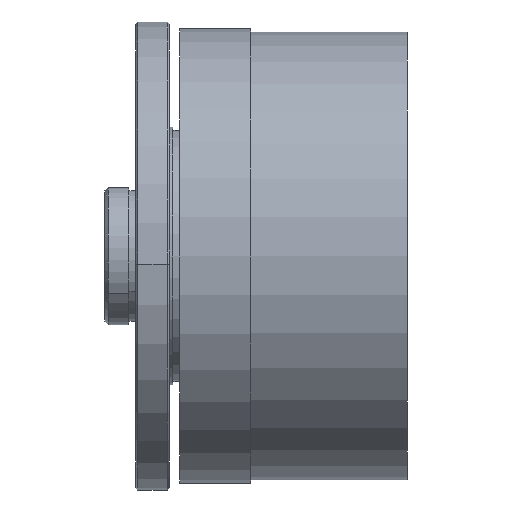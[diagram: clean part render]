
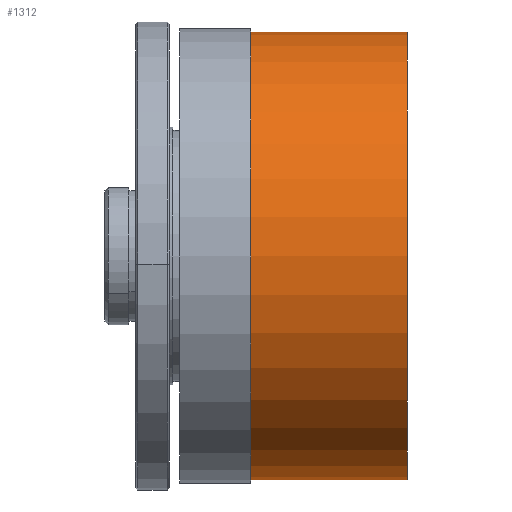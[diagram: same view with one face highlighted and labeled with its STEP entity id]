
A CAD part, left-side view. The second image highlights one B-rep face of the part: STEP entity #1312.
In plain terms, the highlighted cylindrical face has radius 33 mm (diameter 66 mm), a partial arc.
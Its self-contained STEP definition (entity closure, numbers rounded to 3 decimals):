
#97 = VECTOR ( 'NONE', #1203, 1000. ) ;
#114 = EDGE_CURVE ( 'NONE', #715, #488, #1775, .T. ) ;
#235 = EDGE_CURVE ( 'NONE', #2504, #2210, #1233, .T. ) ;
#417 = DIRECTION ( 'NONE',  ( 0., -1., 0. ) ) ;
#434 = ORIENTED_EDGE ( 'NONE', *, *, #471, .F. ) ;
#471 = EDGE_CURVE ( 'NONE', #2210, #488, #709, .T. ) ;
#475 = CIRCLE ( 'NONE', #827, 33. ) ;
#488 = VERTEX_POINT ( 'NONE', #2291 ) ;
#596 = CARTESIAN_POINT ( 'NONE',  ( 0., 0., 33. ) ) ;
#709 = CIRCLE ( 'NONE', #1450, 33. ) ;
#715 = VERTEX_POINT ( 'NONE', #1384 ) ;
#732 = CARTESIAN_POINT ( 'NONE',  ( 0., 0., 0. ) ) ;
#814 = EDGE_LOOP ( 'NONE', ( #2281, #1804, #1270, #434 ) ) ;
#827 = AXIS2_PLACEMENT_3D ( 'NONE', #1867, #909, #1438 ) ;
#909 = DIRECTION ( 'NONE',  ( 0., -1., 0. ) ) ;
#1033 = CYLINDRICAL_SURFACE ( 'NONE', #1288, 33. ) ;
#1102 = VECTOR ( 'NONE', #1222, 1000. ) ;
#1195 = CARTESIAN_POINT ( 'NONE',  ( 0., 0., -33. ) ) ;
#1203 = DIRECTION ( 'NONE',  ( 0., -1., 0. ) ) ;
#1222 = DIRECTION ( 'NONE',  ( 0., -1., 0. ) ) ;
#1233 = LINE ( 'NONE', #1622, #1102 ) ;
#1270 = ORIENTED_EDGE ( 'NONE', *, *, #114, .T. ) ;
#1288 = AXIS2_PLACEMENT_3D ( 'NONE', #1378, #417, #1803 ) ;
#1294 = DIRECTION ( 'NONE',  ( 0., 0., -1. ) ) ;
#1312 = ADVANCED_FACE ( 'NONE', ( #2230 ), #1033, .T. ) ;
#1337 = DIRECTION ( 'NONE',  ( 0., -1., 0. ) ) ;
#1378 = CARTESIAN_POINT ( 'NONE',  ( 0., 0., 0. ) ) ;
#1384 = CARTESIAN_POINT ( 'NONE',  ( 0., 23., -33. ) ) ;
#1438 = DIRECTION ( 'NONE',  ( 0., 0., -1. ) ) ;
#1450 = AXIS2_PLACEMENT_3D ( 'NONE', #732, #1337, #1294 ) ;
#1488 = CARTESIAN_POINT ( 'NONE',  ( 0., 23., 33. ) ) ;
#1622 = CARTESIAN_POINT ( 'NONE',  ( 0., 0., 33. ) ) ;
#1775 = LINE ( 'NONE', #1195, #97 ) ;
#1803 = DIRECTION ( 'NONE',  ( 0., 0., -1. ) ) ;
#1804 = ORIENTED_EDGE ( 'NONE', *, *, #2427, .T. ) ;
#1867 = CARTESIAN_POINT ( 'NONE',  ( 0., 23., 0. ) ) ;
#2210 = VERTEX_POINT ( 'NONE', #596 ) ;
#2230 = FACE_OUTER_BOUND ( 'NONE', #814, .T. ) ;
#2281 = ORIENTED_EDGE ( 'NONE', *, *, #235, .F. ) ;
#2291 = CARTESIAN_POINT ( 'NONE',  ( 0., 0., -33. ) ) ;
#2427 = EDGE_CURVE ( 'NONE', #2504, #715, #475, .T. ) ;
#2504 = VERTEX_POINT ( 'NONE', #1488 ) ;
